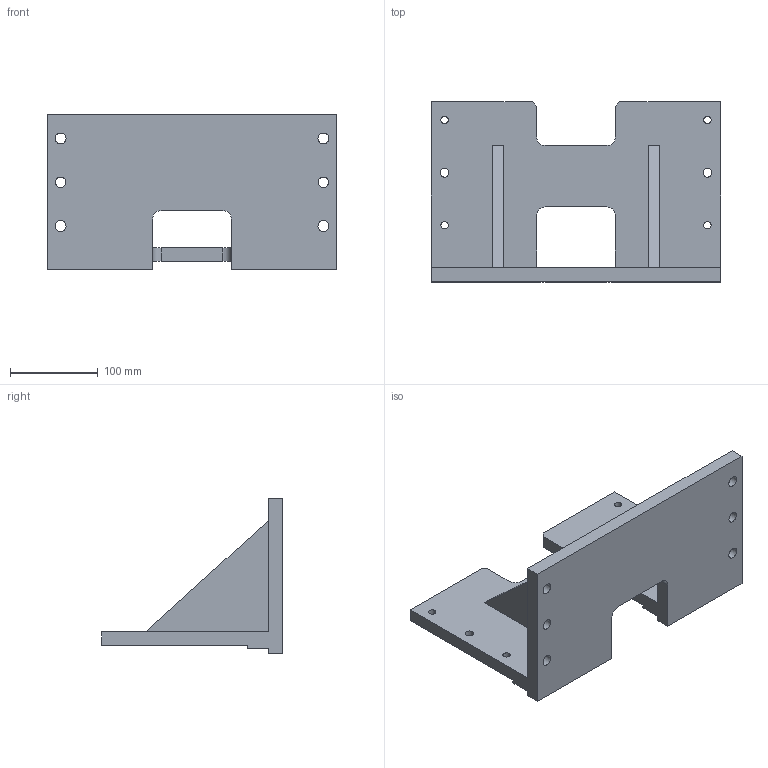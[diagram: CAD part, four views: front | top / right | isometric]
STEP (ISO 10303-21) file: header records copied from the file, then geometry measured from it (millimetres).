
FILE_DESCRIPTION(/* description */ ('DB4-RISER'),/* implementation_level */ '2;1');
FILE_NAME(/* name */ 'C:\Vault Workspace\CAD\Welker\Shot Pin\DBL40\S01896 DB4 Mounting Accessories\S01896E02\S01896E02-125.stp',/* time_stamp */ '2016-05-04T13:48:23-04:00',/* author */ ('klabrecque'),/* organization */ (''),/* preprocessor_version */ 'ST-DEVELOPER v15.2',/* originating_system */ 'Autodesk Inventor 2014',/* authorisation */ '');
FILE_SCHEMA (('AUTOMOTIVE_DESIGN { 1 0 10303 214 3 1 1 }'));
Length unit declared in the file: millimetre
Products named in the file (1): S01896E02-125
Bounding box: 330 x 206 x 177.8 mm (x, y, z)
Volume: 1855541.1 mm3; surface area: 277150.4 mm2
Topology: 1 solids, 1 shells, 50 faces, 162 edges, 112 vertices
Faces by surface type: plane 32, cylinder 18
Full cylindrical faces by diameter (mm): 8.376 x4, 10 x2, 12 x2, 12.5 x4
Entity records: 1753 total; most frequent: CARTESIAN_POINT 289, ORIENTED_EDGE 276, DIRECTION 276, EDGE_CURVE 138, LINE 102, VECTOR 102, VERTEX_POINT 100, AXIS2_PLACEMENT_3D 87
